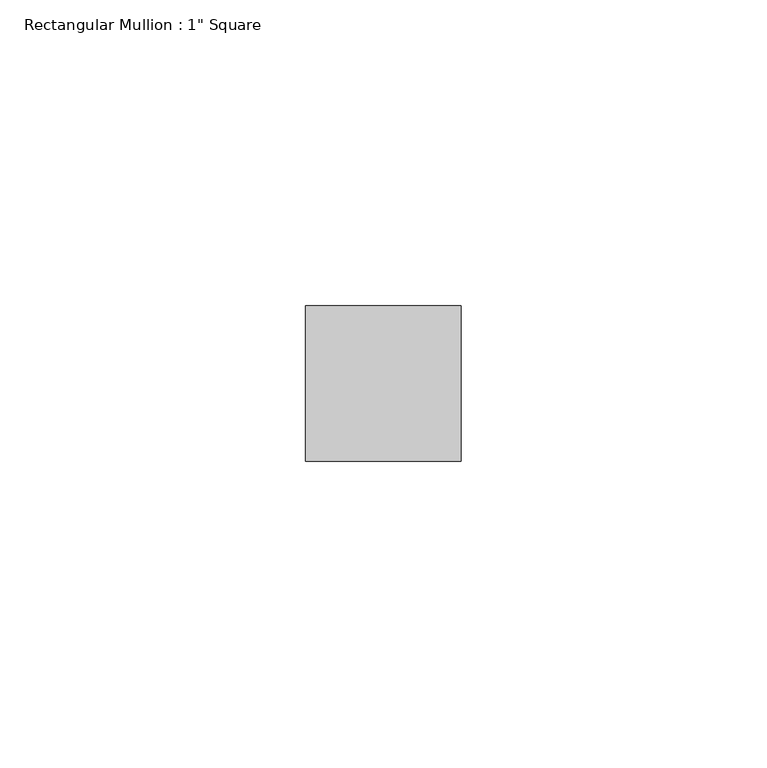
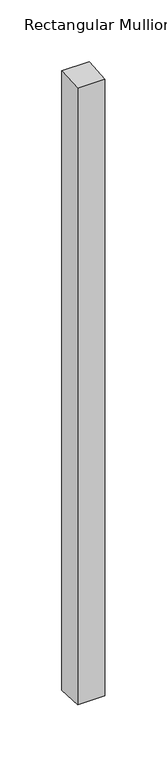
"""IFC4 building model written with IfcOpenShell, lengths in millimetres: member geometry."""

from ifc_helpers import new_model, si_unit, origin, place, context, project, spatial, faceted_brep, source, transform, mapped, element, save


def member_2f10e2aa(model_context):
    return source(origin(), model_context, "Body", "Brep", [
        faceted_brep([(-25.4, 12.7, 0.7617061), (0.0, 12.7, 0.7587397), (0.0, 12.7, -610.3587397), (-25.4, 12.7, -610.3617061), (-25.4, -12.7, -0.7557733), (-25.4, -12.7, -608.8442267), (0.0, -12.7, -0.7587397), (0.0, -12.7, -608.8412603)], [[[0, 1, 2, 3]], [[4, 0, 3, 5]], [[6, 4, 5, 7]], [[1, 6, 7, 2]], [[1, 0, 4, 6]], [[2, 7, 5, 3]]]),
    ])


if __name__ == "__main__":
    model = new_model("IFC4")
    model_context = context("Model", 3, world=origin())
    ifc_project = project(units=[si_unit("LENGTHUNIT", "METRE", prefix="MILLI")], contexts=[model_context])
    site = spatial("IfcSite", under=ifc_project)
    building = spatial("IfcBuilding", under=site)
    placement = place(None, origin())
    member_shape = member_2f10e2aa(model_context)
    element("IfcMember", 1, ObjectType="Rectangular Mullion : 1\" Square", at=placement, inside=building, context=model_context, shape_type="MappedRepresentation", body=[
        mapped(member_shape, transform((0.0, 0.0, 0.0), x_axis=(1.0, 0.0, 0.0), y_axis=(0.0, 1.0, 0.0), z_axis=(0.0, 0.0, 1.0))),
    ])
    save(model, "model.ifc")
